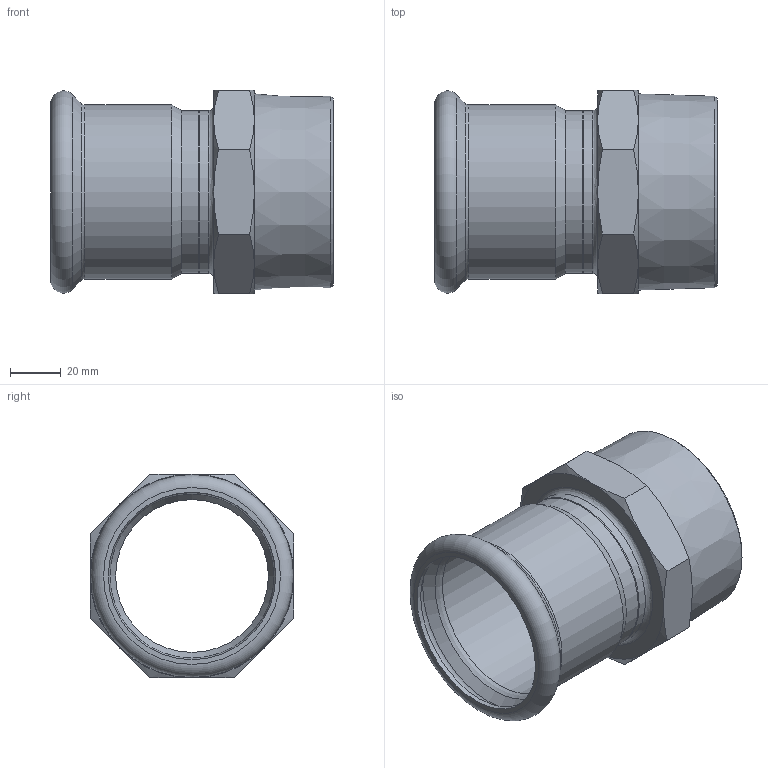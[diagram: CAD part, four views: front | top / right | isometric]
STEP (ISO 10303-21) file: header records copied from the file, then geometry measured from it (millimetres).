
FILE_DESCRIPTION((''),'2;1');
FILE_NAME('G:\Nirosan-Schmiedefeld\Technics\CAD\Bauteile VA\064\69243G64212(0).stp','2010-10-18T13:31:15',('herberg'),(''),'Autodesk Inventor 2009','Autodesk Inventor 2009','');
FILE_SCHEMA(('AUTOMOTIVE_DESIGN { 1 0 10303 214 1 1 1 1 }'));
Length unit declared in the file: millimetre
Products named in the file (3): 69243G64212(0); HM_6924364(0); AG64212(0)
Assembly tree (2 placements, depth 2):
  69243G64212(0)
    HM_6924364(0)
    AG64212(0)
Bounding box: 111 x 80 x 80 mm (x, y, z)
Volume: 104241.6 mm3; surface area: 55201.7 mm2
Topology: 2 solids, 2 shells, 52 faces, 107 edges, 62 vertices
Faces by surface type: cone 23, plane 15, cylinder 6, bspline 6, torus 2
Full cylindrical faces by diameter (mm): 60 x1, 64 x2, 64.4 x1, 65.7 x1, 68.4 x1
Entity records: 1435 total; most frequent: CARTESIAN_POINT 446, DIRECTION 196, ORIENTED_EDGE 166, AXIS2_PLACEMENT_3D 94, EDGE_CURVE 83, EDGE_LOOP 80, VERTEX_POINT 59, FACE_OUTER_BOUND 52
